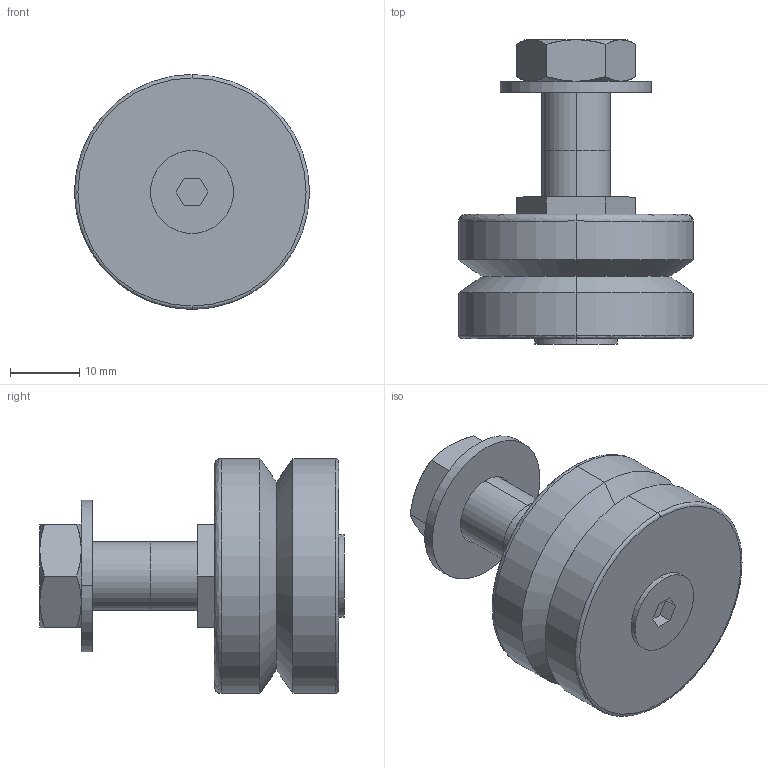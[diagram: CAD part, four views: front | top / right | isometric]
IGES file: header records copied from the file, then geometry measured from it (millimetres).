
Start section: 3D InterOp IGES (Version 21 0 1), Spatial Corp. Copyright (c) 1999-2007.
Global section: file name: NAL-34-C.igs; native system: Spatial Corp.; preprocessor: 3D InterOp GENERIC/IGES 3.0; author: Noname; organization: Noname; date: 20220311.162931; units: millimetre
Bounding box: 34 x 44.05 x 34 mm (x, y, z)
Surface area: 6317.7 mm2 (no closed solid volume)
Topology: 0 solids, 0 shells, 67 faces, 292 edges, 288 vertices
Faces by surface type: revolution 40, extrusion 27
